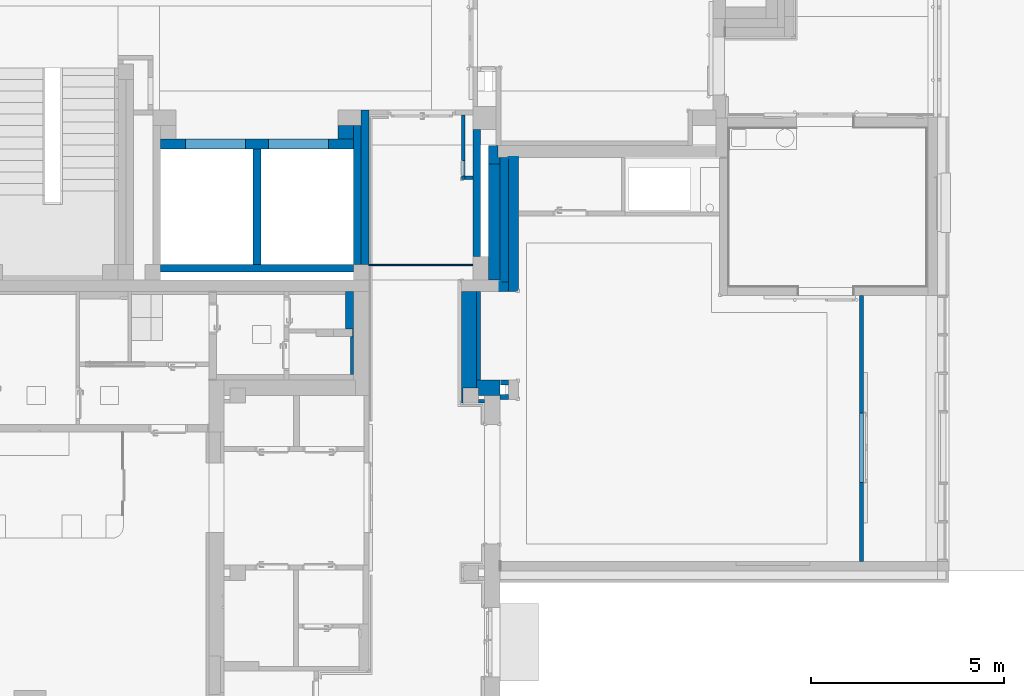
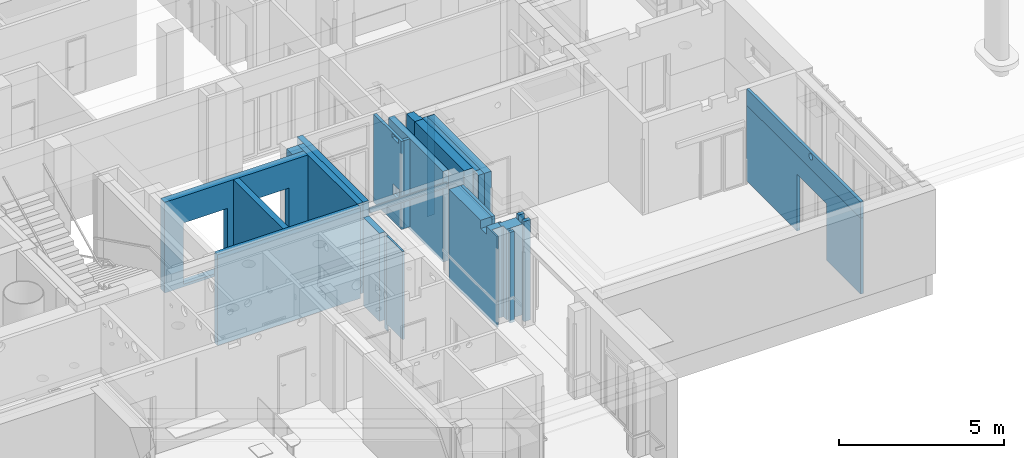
# One storey, part 31 of 140: 28 walls, 8 openings.
"""IFC4 building model written with IfcOpenShell, lengths in metres."""

from ifc_helpers import new_model, entity, si_unit, converted_unit, derived_unit, frame, frame_2d, origin, origin_with_axes, place, context, subcontext, project, spatial, polyline, rectangle, outline, extrude, material, layer, layer_set, layer_usage, element, save


model = new_model("IFC4")

# Units and contexts
model_context = context("Model", 3, precision=1e-05, world=origin())
body_context = subcontext(model_context, "Body", "Model", "MODEL_VIEW")
ifc_project = project(units=[si_unit("LENGTHUNIT", "METRE"), si_unit("AREAUNIT", "SQUARE_METRE"), si_unit("VOLUMEUNIT", "CUBIC_METRE"), si_unit("MASSUNIT", "GRAM", prefix="KILO"), converted_unit("PLANEANGLEUNIT", "DEGREE", entity("IfcPlaneAngleMeasure", 0.0174532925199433), si_unit("PLANEANGLEUNIT", "RADIAN"), dimensions=[0, 0, 0, 0, 0, 0, 0]), derived_unit("THERMALTRANSMITTANCEUNIT", [(si_unit("POWERUNIT", "WATT"), 1), (si_unit("THERMODYNAMICTEMPERATUREUNIT", "KELVIN"), -1), (si_unit("LENGTHUNIT", "METRE"), -2)]), derived_unit("VOLUMETRICFLOWRATEUNIT", [(si_unit("LENGTHUNIT", "METRE"), 3), (converted_unit("TIMEUNIT", "hour", entity("IfcTimeMeasure", 3600.0), si_unit("TIMEUNIT", "SECOND"), dimensions=[0, 0, 1, 0, 0, 0, 0]), -1), (si_unit("LENGTHUNIT", "METRE"), -1)])], contexts=[model_context])

# Site, building, storey
site_placement = place(None, origin())
site = spatial("IfcSite", under=ifc_project, at=site_placement, Name="3. ASŘ", CompositionType="ELEMENT")
building_placement = place(site_placement, origin())
building = spatial("IfcBuilding", under=site, at=building_placement, Name="Pavilon C", CompositionType="ELEMENT")
storey_placement = place(building_placement, origin())
storey = spatial("IfcBuildingStorey", under=building, at=storey_placement, Name="Půdorys 1.NP", CompositionType="ELEMENT", Elevation=0.0)

# Wall, openings
ifc_material_1 = material(Name="ZDIVO Z CDm")
ifc_layer_1 = layer(ifc_material_1, 0.25)
ifc_layer_set_1 = layer_set([ifc_layer_1])
ifc_layer_usage_1 = layer_usage(ifc_layer_set_1, "AXIS2", "POSITIVE", 0.0)
wall_1_placement = place(storey_placement, frame((40.55, -0.550000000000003, -0.1), z_axis=(0.0, 0.0, 1.0), x_axis=(-1.0, 0.0, 0.0)))
wall_1 = element("IfcWall", 1, at=wall_1_placement, inside=storey, material=ifc_layer_usage_1, Name="ZDIVO Z CDm", context=body_context, shape_type="SweptSolid", body=[
    extrude(rectangle(XDim=5.0, YDim=0.25, at=frame_2d((2.5, 0.125), x_axis=(1.0, 0.0))), origin_with_axes(), (0.0, 0.0, 1.0), 3.35),
])
opening_1_placement = place(wall_1_placement, frame((0.65, 0.0, 0.1), z_axis=(0.0, 1.0, 0.0), x_axis=(0.0, 0.0, 1.0)))
element("IfcOpeningElement", 2, at=opening_1_placement, cuts=wall_1, Name="Dveřní otvor", ObjectType="Opening", context=body_context, shape_type="SweptSolid", body=[
    extrude(outline(polyline([(0.0, 1.55), (2.26, 1.55), (2.26, 0.0), (0.0, 0.0), (0.0, 1.55)])), origin_with_axes(), (0.0, 0.0, 1.0), 0.25),
])
opening_2_placement = place(wall_1_placement, frame((2.8, 0.0, 0.1), z_axis=(0.0, 1.0, 0.0), x_axis=(0.0, 0.0, 1.0)))
element("IfcOpeningElement", 3, at=opening_2_placement, cuts=wall_1, Name="Dveřní otvor", ObjectType="Opening", context=body_context, shape_type="SweptSolid", body=[
    extrude(outline(polyline([(0.0, 1.55), (2.26, 1.55), (2.26, 0.0), (0.0, 0.0), (0.0, 1.55)])), origin_with_axes(), (0.0, 0.0, 1.0), 0.25),
])

# Walls
ifc_material_2 = material(Name="ZDIVO Z CDm")
ifc_layer_2 = layer(ifc_material_2, 0.35)
ifc_layer_set_2 = layer_set([ifc_layer_2])
ifc_layer_usage_2 = layer_usage(ifc_layer_set_2, "AXIS2", "POSITIVE", 0.0)
wall_2_placement = place(storey_placement, frame((40.55, -0.200000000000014, -0.1), z_axis=(0.0, 0.0, 1.0), x_axis=(-1.0, 0.0, 0.0)))
element("IfcWall", 4, at=wall_2_placement, inside=storey, material=ifc_layer_usage_2, Name="ZDIVO Z CDm", context=body_context, shape_type="SweptSolid", body=[
    extrude(rectangle(XDim=0.4, YDim=0.35, at=frame_2d((0.2, 0.175), x_axis=(1.0, 0.0))), origin_with_axes(), (0.0, 0.0, 1.0), 3.35),
])
ifc_material_3 = material(Name="ZELEZOBETONOVÁ KCE")
ifc_layer_3 = layer(ifc_material_3, 0.2)
ifc_layer_set_3 = layer_set([ifc_layer_3])
ifc_layer_usage_3 = layer_usage(ifc_layer_set_3, "AXIS2", "POSITIVE", 0.0)
wall_3_placement = place(storey_placement, frame((38.15, -3.8, -0.1), z_axis=(0.0, 0.0, 1.0), x_axis=(0.0, 1.0, 0.0)))
element("IfcWall", 5, at=wall_3_placement, inside=storey, material=ifc_layer_usage_3, Name="ZELEZOBETONOVÁ KCE", context=body_context, shape_type="SweptSolid", body=[
    extrude(rectangle(XDim=3.0, YDim=0.2, at=frame_2d((1.5, 0.1), x_axis=(1.0, 0.0))), origin_with_axes(), (0.0, 0.0, 1.0), 3.35),
])
ifc_material_4 = material(Name="ZELEZOBETONOVÁ KCE")
ifc_layer_4 = layer(ifc_material_4, 0.2)
ifc_layer_set_4 = layer_set([ifc_layer_4])
ifc_layer_usage_4 = layer_usage(ifc_layer_set_4, "AXIS2", "POSITIVE", 0.0)
wall_4_placement = place(storey_placement, frame((43.65, -0.299999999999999, -0.1), z_axis=(0.0, 0.0, 1.0), x_axis=(0.0, -1.0, 0.0)))
element("IfcWall", 6, at=wall_4_placement, inside=storey, material=ifc_layer_usage_4, Name="ZELEZOBETONOVÁ KCE", context=body_context, shape_type="SweptSolid", body=[
    extrude(rectangle(XDim=3.3, YDim=0.2, at=frame_2d((1.65, 0.1), x_axis=(1.0, 0.0))), origin_with_axes(), (0.0, 0.0, 1.0), 3.35),
])
ifc_material_5 = material(Name="ZELEZOBETONOVÁ KCE")
ifc_layer_5 = layer(ifc_material_5, 0.2)
ifc_layer_set_5 = layer_set([ifc_layer_5])
ifc_layer_usage_5 = layer_usage(ifc_layer_set_5, "AXIS2", "POSITIVE", 0.0)
wall_5_placement = place(storey_placement, frame((40.55, -0.200000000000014, -0.1), z_axis=(0.0, 0.0, 1.0), x_axis=(0.0, -1.0, 0.0)))
element("IfcWall", 7, at=wall_5_placement, inside=storey, material=ifc_layer_usage_5, Name="ZELEZOBETONOVÁ KCE", context=body_context, shape_type="SweptSolid", body=[
    extrude(rectangle(XDim=3.6, YDim=0.2, at=frame_2d((1.8, 0.1), x_axis=(1.0, 0.0))), origin_with_axes(), (0.0, 0.0, 1.0), 3.35),
])
ifc_material_6 = material(Name="ZELEZOBETONOVÁ KCE")
ifc_layer_6 = layer(ifc_material_6, 0.2)
ifc_layer_set_6 = layer_set([ifc_layer_6])
ifc_layer_usage_6 = layer_usage(ifc_layer_set_6, "AXIS2", "POSITIVE", 0.0)
wall_6_placement = place(storey_placement, frame((40.75, 0.199999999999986, -0.1), z_axis=(0.0, 0.0, 1.0), x_axis=(0.0, -1.0, 0.0)))
element("IfcWall", 8, at=wall_6_placement, inside=storey, material=ifc_layer_usage_6, Name="ZELEZOBETONOVÁ KCE", context=body_context, shape_type="SweptSolid", body=[
    extrude(rectangle(XDim=4.0, YDim=0.2, at=frame_2d((2.0, 0.1), x_axis=(1.0, 0.0))), origin_with_axes(), (0.0, 0.0, 1.0), 3.35),
])
ifc_material_7 = material(Name="ZELEZOBETONOVÁ KCE")
ifc_layer_7 = layer(ifc_material_7, 0.2)
ifc_layer_set_7 = layer_set([ifc_layer_7])
ifc_layer_usage_7 = layer_usage(ifc_layer_set_7, "AXIS2", "POSITIVE", 0.0)
wall_7_placement = place(storey_placement, frame((40.55, -3.80000000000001, -0.1), z_axis=(0.0, 0.0, 1.0), x_axis=(-1.0, 1.81898940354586e-16, 0.0)))
element("IfcWall", 9, at=wall_7_placement, inside=storey, material=ifc_layer_usage_7, Name="ZELEZOBETONOVÁ KCE", context=body_context, shape_type="SweptSolid", body=[
    extrude(rectangle(XDim=5.0, YDim=0.2, at=frame_2d((2.5, 0.1), x_axis=(1.0, 0.0))), origin_with_axes(), (0.0, 0.0, 1.0), 3.35),
])
ifc_material_8 = material(Name="ZELEZOBETONOVÁ KCE")
ifc_layer_8 = layer(ifc_material_8, 0.3)
ifc_layer_set_8 = layer_set([ifc_layer_8])
ifc_layer_usage_8 = layer_usage(ifc_layer_set_8, "AXIS2", "POSITIVE", 0.0)
wall_8_placement = place(storey_placement, frame((44.35, -4.2, -0.1), z_axis=(0.0, 0.0, 1.0), x_axis=(0.0, 1.0, 0.0)))
element("IfcWall", 10, at=wall_8_placement, inside=storey, material=ifc_layer_usage_8, Name="ZELEZOBETONOVÁ KCE", context=body_context, shape_type="SweptSolid", body=[
    extrude(rectangle(XDim=3.0, YDim=0.3, at=frame_2d((1.5, 0.15), x_axis=(1.0, 0.0))), origin_with_axes(), (0.0, 0.0, 1.0), 3.6),
])
ifc_material_9 = material(Name="ZDIVO Z CDm")
ifc_layer_9 = layer(ifc_material_9, 0.3)
ifc_layer_set_9 = layer_set([ifc_layer_9])
ifc_layer_usage_9 = layer_usage(ifc_layer_set_9, "AXIS2", "POSITIVE", 0.0)
wall_9_placement = place(storey_placement, frame((44.05, -0.720000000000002, -0.1), z_axis=(0.0, 0.0, 1.0), x_axis=(0.0, -1.0, 0.0)))
element("IfcWall", 11, at=wall_9_placement, inside=storey, material=ifc_layer_usage_9, Name="ZDIVO Z CDm", context=body_context, shape_type="SweptSolid", body=[
    extrude(outline(polyline([(-0.480000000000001, 0.0), (0.0, 0.0), (0.0, 0.3), (-0.180000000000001, 0.3), (-0.180000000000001, 0.25), (-0.480000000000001, 0.25), (-0.480000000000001, 0.0)])), frame((0.480000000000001, 0.0, 0.0), z_axis=(0.0, 0.0, 1.0), x_axis=(1.0, 0.0, 0.0)), (0.0, 0.0, 1.0), 3.6),
])

# Wall, opening
ifc_material_10 = material(Name="STÁVAJÍCÍ KCE")
ifc_layer_10 = layer(ifc_material_10, 0.4)
ifc_layer_set_10 = layer_set([ifc_layer_10])
ifc_layer_usage_10 = layer_usage(ifc_layer_set_10, "AXIS2", "POSITIVE", 0.0)
wall_10_placement = place(storey_placement, frame((43.35, -4.5, -0.1), z_axis=(0.0, 0.0, 1.0), x_axis=(0.0, -1.0, 0.0)))
wall_10 = element("IfcWall", 12, at=wall_10_placement, inside=storey, material=ifc_layer_usage_10, Name="STÁVAJÍCÍ KCE", context=body_context, shape_type="SweptSolid", body=[
    extrude(outline(polyline([(-2.9, 0.0), (0.0, 0.0), (0.0, 0.05), (-0.399999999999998, 0.05), (-0.399999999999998, 0.4), (-2.9, 0.4), (-2.9, 0.0)])), frame((2.9, 0.0, 0.0), z_axis=(0.0, 0.0, 1.0), x_axis=(1.0, 0.0, 0.0)), (0.0, 0.0, 1.0), 3.35),
])
opening_3_placement = place(wall_10_placement, frame((2.25, 0.4, 3.05), z_axis=(0.0, -1.0, 0.0), x_axis=(0.0, 0.0, 1.0)))
element("IfcOpeningElement", 13, at=opening_3_placement, cuts=wall_10, Name="VZT", ObjectType="Opening", context=body_context, shape_type="SweptSolid", body=[
    extrude(outline(polyline([(0.0, 0.35), (0.3, 0.35), (0.3, 0.0), (0.0, 0.0), (0.0, 0.35)])), origin_with_axes(), (0.0, 0.0, 1.0), 0.400000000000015),
])

# Walls
ifc_material_11 = material(Name="STÁVAJÍC KCE")
ifc_layer_11 = layer(ifc_material_11, 0.4)
ifc_layer_set_11 = layer_set([ifc_layer_11])
ifc_layer_usage_11 = layer_usage(ifc_layer_set_11, "AXIS2", "POSITIVE", 0.0)
wall_11_placement = place(storey_placement, frame((44.35, -6.8, -0.1), z_axis=(0.0, 0.0, 1.0), x_axis=(-1.0, 0.0, 0.0)))
element("IfcWall", 14, at=wall_11_placement, inside=storey, material=ifc_layer_usage_11, Name="STÁVAJÍCÍ KCE", context=body_context, shape_type="SweptSolid", body=[
    extrude(outline(polyline([(-0.6, -0.4), (0.0, -0.4), (0.0, -0.199999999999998), (-0.05, -0.199999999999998), (-0.05, 0.0), (-0.6, 0.0), (-0.6, -0.4)])), frame((0.6, 0.4, 0.0), z_axis=(0.0, 0.0, 1.0), x_axis=(1.0, 0.0, 0.0)), (0.0, 0.0, 1.0), 3.35),
])
ifc_material_12 = material(Name="STÁVAJÍC KCE")
ifc_layer_12 = layer(ifc_material_12, 0.1)
ifc_layer_set_12 = layer_set([ifc_layer_12])
ifc_layer_usage_12 = layer_usage(ifc_layer_set_12, "AXIS2", "POSITIVE", 0.0)
wall_12_placement = place(storey_placement, frame((43.8, -7.4, -0.1)))
element("IfcWall", 15, at=wall_12_placement, inside=storey, material=ifc_layer_usage_12, Name="STÁVAJÍCÍ KCE", context=body_context, shape_type="SweptSolid", body=[
    extrude(rectangle(XDim=0.15, YDim=0.1, at=frame_2d((0.075, 0.05), x_axis=(1.0, 0.0))), origin_with_axes(), (0.0, 0.0, 1.0), 3.35),
])

# Wall, opening
ifc_material_13 = material(Name="PROSKLENÁ PŘÍČKA DVOJITÁ")
ifc_layer_13 = layer(ifc_material_13, 0.1)
ifc_layer_set_13 = layer_set([ifc_layer_13])
ifc_layer_usage_13 = layer_usage(ifc_layer_set_13, "AXIS2", "POSITIVE", 0.0)
wall_13_placement = place(storey_placement, frame((53.78, -11.5, 0.0), z_axis=(0.0, 0.0, 1.0), x_axis=(0.0, 1.0, 0.0)))
wall_13 = element("IfcWall", 16, at=wall_13_placement, inside=storey, material=ifc_layer_usage_13, Name="PROSKLENÁ PŘÍČKA DVOJITÁ", context=body_context, shape_type="SweptSolid", body=[
    extrude(rectangle(XDim=6.9, YDim=0.1, at=frame_2d((3.45, 0.05), x_axis=(1.0, 0.0))), origin_with_axes(), (0.0, 0.0, 1.0), 2.8),
])
opening_4_placement = place(wall_13_placement, frame((2.05000000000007, 0.0, 0.0), z_axis=(0.0, 1.0, 0.0), x_axis=(0.0, 0.0, 1.0)))
element("IfcOpeningElement", 17, at=opening_4_placement, cuts=wall_13, Name="Dveřní otvor", ObjectType="Opening", context=body_context, shape_type="SweptSolid", body=[
    extrude(outline(polyline([(0.0, 1.8), (2.1, 1.8), (2.1, 0.0), (0.0, 0.0), (0.0, 1.8)])), origin_with_axes(), (0.0, 0.0, 1.0), 0.1),
])

# Walls
ifc_material_14 = material(Name="SDK SVISLA CAST PODHLEDU")
ifc_layer_14 = layer(ifc_material_14, 0.0400000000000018)
ifc_layer_set_14 = layer_set([ifc_layer_14])
ifc_layer_usage_14 = layer_usage(ifc_layer_set_14, "AXIS2", "POSITIVE", 0.0)
wall_14_placement = place(storey_placement, frame((43.65, -3.8, 2.8), z_axis=(0.0, 0.0, 1.0), x_axis=(-1.0, -1.68424944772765e-16, 0.0)))
element("IfcWall", 18, at=wall_14_placement, inside=storey, material=ifc_layer_usage_14, Name="SDK SVISLA CAST PODHLEDU", context=body_context, shape_type="SweptSolid", body=[
    extrude(rectangle(XDim=2.69999999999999, YDim=0.0400000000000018, at=frame_2d((1.35, 0.0200000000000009), x_axis=(1.0, 0.0))), origin_with_axes(), (0.0, 0.0, 1.0), 0.2),
])
ifc_material_15 = material(Name="ZELEZOBETONOVÁ KCE")
ifc_layer_15 = layer(ifc_material_15, 0.25)
ifc_layer_set_15 = layer_set([ifc_layer_15])
ifc_layer_usage_15 = layer_usage(ifc_layer_set_15, "AXIS2", "POSITIVE", -0.25)
wall_15_placement = place(storey_placement, frame((44.58, -4.25, -0.3), z_axis=(0.0, 0.0, 1.0), x_axis=(-1.0, 0.0, 0.0)))
element("IfcWall", 19, at=wall_15_placement, inside=storey, material=ifc_layer_usage_15, Name="ZELEZOBETONOVÁ KCE", context=body_context, shape_type="SweptSolid", body=[
    extrude(rectangle(XDim=0.21, YDim=0.25, at=frame_2d((0.105, 0.125), x_axis=(1.0, 0.0))), origin_with_axes(), (0.0, 0.0, 1.0), 3.7),
])
ifc_material_16 = material(Name="ZELEZOBETONOVÁ KCE")
ifc_layer_16 = layer(ifc_material_16, 0.25)
ifc_layer_set_16 = layer_set([ifc_layer_16])
ifc_layer_usage_16 = layer_usage(ifc_layer_set_16, "AXIS2", "POSITIVE", -0.25)
wall_16_placement = place(storey_placement, frame((44.83, -4.5, -0.3), z_axis=(0.0, 0.0, 1.0), x_axis=(0.0, 1.0, 0.0)))
element("IfcWall", 20, at=wall_16_placement, inside=storey, material=ifc_layer_usage_16, Name="ZELEZOBETONOVÁ KCE", context=body_context, shape_type="SweptSolid", body=[
    extrude(rectangle(XDim=3.46, YDim=0.25, at=frame_2d((1.73, 0.125), x_axis=(1.0, 0.0))), origin_with_axes(), (0.0, 0.0, 1.0), 3.7),
])
ifc_material_17 = material(Name="EPS")
ifc_layer_17 = layer(ifc_material_17, 0.02)
ifc_layer_set_17 = layer_set([ifc_layer_17])
ifc_layer_usage_17 = layer_usage(ifc_layer_set_17, "AXIS2", "POSITIVE", 0.0)
wall_17_placement = place(storey_placement, frame((44.83, -1.02, -0.3), z_axis=(0.0, 0.0, 1.0), x_axis=(-1.0, -2.72848410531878e-15, 0.0)))
element("IfcWall", 21, at=wall_17_placement, inside=storey, material=ifc_layer_usage_17, Name="EPS", context=body_context, shape_type="SweptSolid", body=[
    extrude(rectangle(XDim=0.25, YDim=0.02, at=frame_2d((0.125, 0.01), x_axis=(1.0, 0.0))), origin_with_axes(), (0.0, 0.0, 1.0), 3.7),
])
ifc_material_18 = material(Name="EPS")
ifc_layer_18 = layer(ifc_material_18, 0.02)
ifc_layer_set_18 = layer_set([ifc_layer_18])
ifc_layer_usage_18 = layer_usage(ifc_layer_set_18, "AXIS2", "POSITIVE", 0.0)
wall_18_placement = place(storey_placement, frame((44.35, -4.25, -0.3), z_axis=(0.0, 0.0, 1.0), x_axis=(2.91038304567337e-14, -1.0, 0.0)))
element("IfcWall", 22, at=wall_18_placement, inside=storey, material=ifc_layer_usage_18, Name="EPS", context=body_context, shape_type="SweptSolid", body=[
    extrude(rectangle(XDim=0.25, YDim=0.02, at=frame_2d((0.125, 0.01), x_axis=(1.0, 0.0))), origin_with_axes(), (0.0, 0.0, 1.0), 3.7),
])
ifc_material_19 = material(Name="EPS")
ifc_layer_19 = layer(ifc_material_19, 0.23)
ifc_layer_set_19 = layer_set([ifc_layer_19])
ifc_layer_usage_19 = layer_usage(ifc_layer_set_19, "AXIS2", "POSITIVE", 0.0)
wall_19_placement = place(storey_placement, frame((44.58, -4.25, -0.3), z_axis=(0.0, 0.0, 1.0), x_axis=(0.0, 1.0, 0.0)))
element("IfcWall", 23, at=wall_19_placement, inside=storey, material=ifc_layer_usage_19, Name="EPS", context=body_context, shape_type="SweptSolid", body=[
    extrude(rectangle(XDim=3.23, YDim=0.23, at=frame_2d((1.615, 0.115), x_axis=(1.0, 0.0))), origin_with_axes(), (0.0, 0.0, 1.0), 3.7),
])
ifc_material_20 = material(Name="EPS")
ifc_layer_20 = layer(ifc_material_20, 0.02)
ifc_layer_set_20 = layer_set([ifc_layer_20])
ifc_layer_usage_20 = layer_usage(ifc_layer_set_20, "AXIS2", "POSITIVE", 0.0)
wall_20_placement = place(storey_placement, frame((40.55, -5.67499998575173, -0.3), z_axis=(0.0, 0.0, 1.0), x_axis=(0.0, 1.0, 0.0)))
element("IfcWall", 24, at=wall_20_placement, inside=storey, material=ifc_layer_usage_20, Name="EPS", context=body_context, shape_type="SweptSolid", body=[
    extrude(rectangle(XDim=0.2, YDim=0.02, at=frame_2d((0.1, 0.01), x_axis=(1.0, 0.0))), origin_with_axes(), (0.0, 0.0, 1.0), 3.55),
])
ifc_material_21 = material(Name="YTONG 125")
ifc_layer_21 = layer(ifc_material_21, 0.125)
ifc_layer_set_21 = layer_set([ifc_layer_21])
ifc_layer_usage_21 = layer_usage(ifc_layer_set_21, "AXIS2", "POSITIVE", 0.0)
wall_21_placement = place(storey_placement, frame((44.35, -7.3, -0.3)))
element("IfcWall", 25, at=wall_21_placement, inside=storey, material=ifc_layer_usage_21, Name="YTONG 125", context=body_context, shape_type="SweptSolid", body=[
    extrude(rectangle(XDim=0.23, YDim=0.125, at=frame_2d((0.115, 0.0625), x_axis=(1.0, 0.0))), origin_with_axes(), (0.0, 0.0, 1.0), 3.7),
])
ifc_material_22 = material(Name="YTONG 125")
ifc_layer_22 = layer(ifc_material_22, 0.125)
ifc_layer_set_22 = layer_set([ifc_layer_22])
ifc_layer_usage_22 = layer_usage(ifc_layer_set_22, "AXIS2", "POSITIVE", 0.0)
wall_22_placement = place(storey_placement, frame((44.37, -6.925, -0.3)))
element("IfcWall", 26, at=wall_22_placement, inside=storey, material=ifc_layer_usage_22, Name="YTONG 125", context=body_context, shape_type="SweptSolid", body=[
    extrude(rectangle(XDim=0.21, YDim=0.125, at=frame_2d((0.105, 0.0625), x_axis=(1.0, 0.0))), origin_with_axes(), (0.0, 0.0, 1.0), 3.7),
])

# Wall, opening
ifc_material_23 = material(Name="SDK - OCEL. KCE + 2 OPLÁŠTĚNÍ")
ifc_layer_23 = layer(ifc_material_23, 0.1)
ifc_layer_set_23 = layer_set([ifc_layer_23])
ifc_layer_usage_23 = layer_usage(ifc_layer_set_23, "AXIS2", "POSITIVE", 0.0)
wall_23_placement = place(storey_placement, frame((53.78, -11.5, 2.8), z_axis=(0.0, 0.0, 1.0), x_axis=(0.0, 1.0, 0.0)))
wall_23 = element("IfcWall", 27, at=wall_23_placement, inside=storey, material=ifc_layer_usage_23, Name="SDK - OCEL. KCE + 2 OPLÁŠTĚNÍ", context=body_context, shape_type="SweptSolid", body=[
    extrude(rectangle(XDim=6.89999999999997, YDim=0.1, at=frame_2d((3.44999999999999, 0.05), x_axis=(1.0, 0.0))), origin_with_axes(), (0.0, 0.0, 1.0), 0.6),
])
opening_5_placement = place(wall_23_placement, frame((3.13071053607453, 0.1, 0.337500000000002), z_axis=(0.0, -1.0, 0.0), x_axis=(0.0, 0.0, 1.0)))
element("IfcOpeningElement", 28, at=opening_5_placement, cuts=wall_23, Name="VZT", ObjectType="Opening", context=body_context, shape_type="SweptSolid", body=[
    extrude(outline(polyline([(0.112499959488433, 0.0), (0.10074050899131, 0.000616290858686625), (0.0891098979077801, 0.00245840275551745), (0.0777355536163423, 0.00550615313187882), (0.0667420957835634, 0.00972615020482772), (0.0562499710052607, 0.0150721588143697), (0.0463741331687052, 0.0214856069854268), (0.0372227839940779, 0.0288962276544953), (0.028896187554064, 0.0372228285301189), (0.0214855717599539, 0.0463741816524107), (0.0150721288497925, 0.0562500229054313), (0.00972612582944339, 0.0667421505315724), (0.00550613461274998, 0.0777356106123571), (0.00245839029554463, 0.0891099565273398), (0.000616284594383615, 0.100740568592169), (0.0, 0.11250001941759), (0.000616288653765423, 0.124259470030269), (0.00245839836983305, 0.135890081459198), (0.00550614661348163, 0.147264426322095), (0.00972614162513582, 0.158257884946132), (0.0150721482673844, 0.168750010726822), (0.0214855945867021, 0.178625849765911), (0.0288962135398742, 0.187777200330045), (0.0372228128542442, 0.196103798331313), (0.0463741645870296, 0.20351441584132), (0.056250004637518, 0.20992786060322), (0.066742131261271, 0.215273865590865), (0.0777355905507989, 0.219493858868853), (0.0891099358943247, 0.222541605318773), (0.100740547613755, 0.224383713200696), (0.112499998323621, 0.225), (0.124259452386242, 0.224383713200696), (0.135890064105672, 0.222541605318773), (0.147264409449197, 0.219493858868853), (0.158257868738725, 0.215273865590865), (0.168749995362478, 0.20992786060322), (0.178625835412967, 0.20351441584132), (0.187777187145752, 0.196103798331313), (0.196103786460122, 0.187777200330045), (0.203514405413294, 0.178625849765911), (0.209927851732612, 0.168750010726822), (0.215273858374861, 0.158257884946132), (0.219493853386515, 0.147264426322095), (0.222541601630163, 0.135890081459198), (0.224383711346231, 0.124259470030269), (0.224999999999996, 0.11250001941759), (0.224383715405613, 0.100740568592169), (0.222541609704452, 0.0891099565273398), (0.219493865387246, 0.0777356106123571), (0.215273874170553, 0.0667421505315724), (0.209927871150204, 0.0562500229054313), (0.203514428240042, 0.0463741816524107), (0.196103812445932, 0.0372228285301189), (0.187777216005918, 0.0288962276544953), (0.178625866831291, 0.0214856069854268), (0.168750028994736, 0.0150721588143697), (0.158257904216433, 0.00972615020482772), (0.147264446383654, 0.00550615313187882), (0.135890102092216, 0.00245840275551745), (0.124259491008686, 0.000616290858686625), (0.112499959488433, 0.0)])), origin_with_axes(), (0.0, 0.0, 1.0), 0.0999999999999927),
])

ifc_material_24 = material(Name="SDK OPL. PROFESÍ/SDK OPL. BEZ PO")
ifc_layer_24 = layer(ifc_material_24, 0.1)
ifc_layer_set_24 = layer_set([ifc_layer_24])
ifc_layer_usage_24 = layer_usage(ifc_layer_set_24, "AXIS2", "POSITIVE", 0.0)
wall_24_placement = place(storey_placement, frame((43.75, -4.5, 0.0), z_axis=(0.0, 0.0, 1.0), x_axis=(0.0, -1.0, 0.0)))
wall_24 = element("IfcWall", 29, at=wall_24_placement, inside=storey, material=ifc_layer_usage_24, Name="SDK OPL. PROFESÍ/SDK OPL. BEZ PO", context=body_context, shape_type="SweptSolid", body=[
    extrude(rectangle(XDim=2.3, YDim=0.1, at=frame_2d((1.15, 0.05), x_axis=(1.0, 0.0))), origin_with_axes(), (0.0, 0.0, 1.0), 3.25),
])
opening_6_placement = place(wall_24_placement, frame((2.25, 0.1, 2.95), z_axis=(0.0, -1.0, 0.0), x_axis=(0.0, 0.0, 1.0)))
element("IfcOpeningElement", 30, at=opening_6_placement, cuts=wall_24, Name="VZT", ObjectType="Opening", context=body_context, shape_type="SweptSolid", body=[
    extrude(outline(polyline([(0.0, 0.35), (0.3, 0.35), (0.3, 0.0), (0.0, 0.0), (0.0, 0.35)])), origin_with_axes(), (0.0, 0.0, 1.0), 0.1),
])

# Walls
ifc_material_25 = material(Name="SDK OPL. PROFESÍ/SDK OPL. BEZ PO")
ifc_layer_25 = layer(ifc_material_25, 0.075)
ifc_layer_set_25 = layer_set([ifc_layer_25])
ifc_layer_usage_25 = layer_usage(ifc_layer_set_25, "AXIS2", "POSITIVE", 0.0)
wall_25_placement = place(storey_placement, frame((40.55, -6.65, 0.0), z_axis=(0.0, 0.0, 1.0), x_axis=(0.0, 1.0, 0.0)))
element("IfcWall", 31, at=wall_25_placement, inside=storey, material=ifc_layer_usage_25, Name="SDK OPL. PROFESÍ/SDK OPL. BEZ PO", context=body_context, shape_type="SweptSolid", body=[
    extrude(rectangle(XDim=0.974999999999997, YDim=0.075, at=frame_2d((0.487499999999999, 0.0375), x_axis=(1.0, 0.0))), origin_with_axes(), (0.0, 0.0, 1.0), 3.25),
])
ifc_material_26 = material(Name="SDK INSTAL. PŘDSTĚNA VYSOKÁ")
ifc_layer_26 = layer(ifc_material_26, 0.2)
ifc_layer_set_26 = layer_set([ifc_layer_26])
ifc_layer_usage_26 = layer_usage(ifc_layer_set_26, "AXIS2", "POSITIVE", 0.0)
wall_26_placement = place(storey_placement, frame((40.55, -5.47499998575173, 0.0), z_axis=(0.0, 0.0, 1.0), x_axis=(0.0, 1.0, 0.0)))
element("IfcWall", 32, at=wall_26_placement, inside=storey, material=ifc_layer_usage_26, Name="SDK INSTAL. PŘDSTĚNA VYSOKÁ", context=body_context, shape_type="SweptSolid", body=[
    extrude(rectangle(XDim=0.974999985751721, YDim=0.2, at=frame_2d((0.48749999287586, 0.1), x_axis=(1.0, 0.0))), origin_with_axes(), (0.0, 0.0, 1.0), 3.25),
])

# Wall, openings
ifc_material_27 = material(Name="SDK OPL. PROFESÍ/SDK OPL. BEZ PO")
ifc_layer_27 = layer(ifc_material_27, 0.1)
ifc_layer_set_27 = layer_set([ifc_layer_27])
ifc_layer_usage_27 = layer_usage(ifc_layer_set_27, "AXIS2", "POSITIVE", 0.0)
wall_27_placement = place(storey_placement, frame((43.35, 0.0749999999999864, 0.0), z_axis=(0.0, 0.0, 1.0), x_axis=(0.0, -1.0, 0.0)))
wall_27 = element("IfcWall", 33, at=wall_27_placement, inside=storey, material=ifc_layer_usage_27, Name="SDK OPL. PROFESÍ/SDK OPL. BEZ PO", context=body_context, shape_type="SweptSolid", body=[
    extrude(rectangle(XDim=1.675, YDim=0.1, at=frame_2d((0.8375, 0.05), x_axis=(1.0, 0.0))), origin_with_axes(), (0.0, 0.0, 1.0), 3.25),
])
opening_7_placement = place(wall_27_placement, frame((1.175, 0.0, 1.0), z_axis=(0.0, 1.0, 0.0), x_axis=(0.0, 0.0, 1.0)))
element("IfcOpeningElement", 34, at=opening_7_placement, cuts=wall_27, Name="Okenní otvor", ObjectType="Opening", context=body_context, shape_type="SweptSolid", body=[
    extrude(outline(polyline([(0.0, 0.4), (0.4, 0.4), (0.4, 0.0), (0.0, 0.0), (0.0, 0.4)])), origin_with_axes(), (0.0, 0.0, 1.0), 0.1),
])
opening_8_placement = place(wall_27_placement, frame((1.52500000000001, 0.1, 3.07), z_axis=(0.0, -1.0, 0.0), x_axis=(0.0, 0.0, 1.0)))
element("IfcOpeningElement", 35, at=opening_8_placement, cuts=wall_27, Name="ZTI", ObjectType="Opening", context=body_context, shape_type="SweptSolid", body=[
    extrude(outline(polyline([(0.0, 0.4), (0.15, 0.4), (0.15, 0.0), (0.0, 0.0), (0.0, 0.4)])), origin_with_axes(), (0.0, 0.0, 1.0), 0.1),
])

# Wall
ifc_material_28 = material(Name="SDK OPL. PROFESÍ/SDK OPL. BEZ PO")
ifc_layer_28 = layer(ifc_material_28, 0.1)
ifc_layer_set_28 = layer_set([ifc_layer_28])
ifc_layer_usage_28 = layer_usage(ifc_layer_set_28, "AXIS2", "POSITIVE", 0.0)
wall_28_placement = place(storey_placement, frame((43.45, -1.60000000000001, 0.0)))
element("IfcWall", 36, at=wall_28_placement, inside=storey, material=ifc_layer_usage_28, Name="SDK OPL. PROFESÍ/SDK OPL. BEZ PO", context=body_context, shape_type="SweptSolid", body=[
    extrude(rectangle(XDim=0.199999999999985, YDim=0.1, at=frame_2d((0.0999999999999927, 0.05), x_axis=(1.0, 0.0))), origin_with_axes(), (0.0, 0.0, 1.0), 3.25),
])

save(model, "model.ifc")
